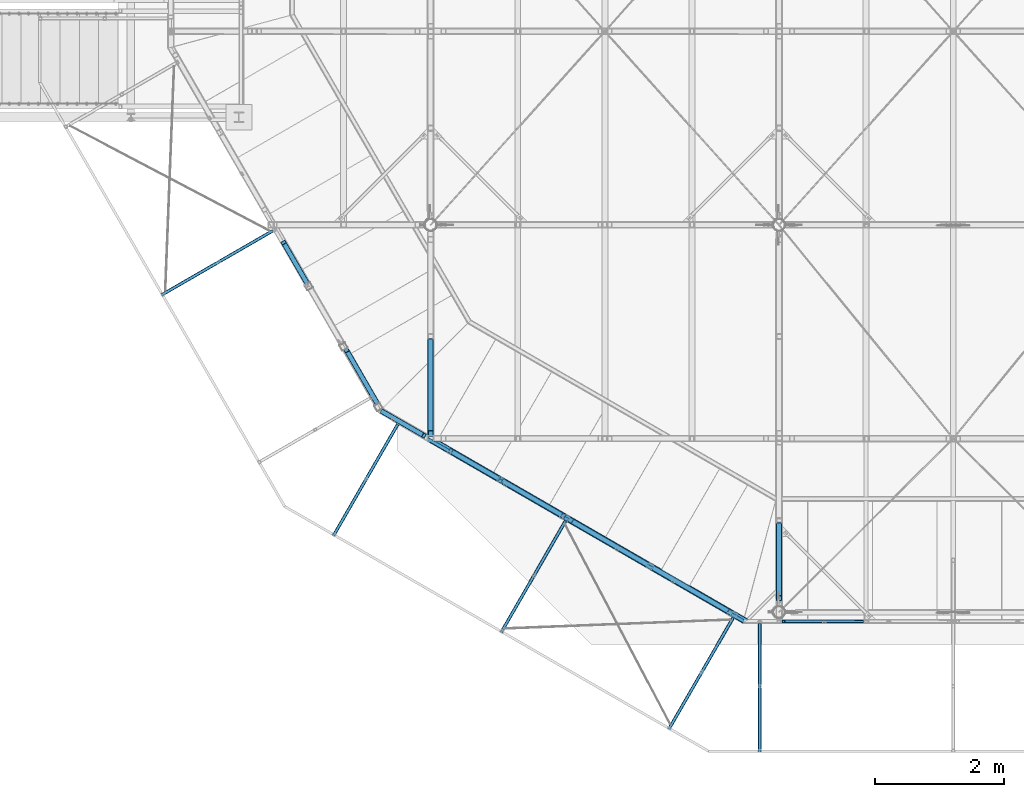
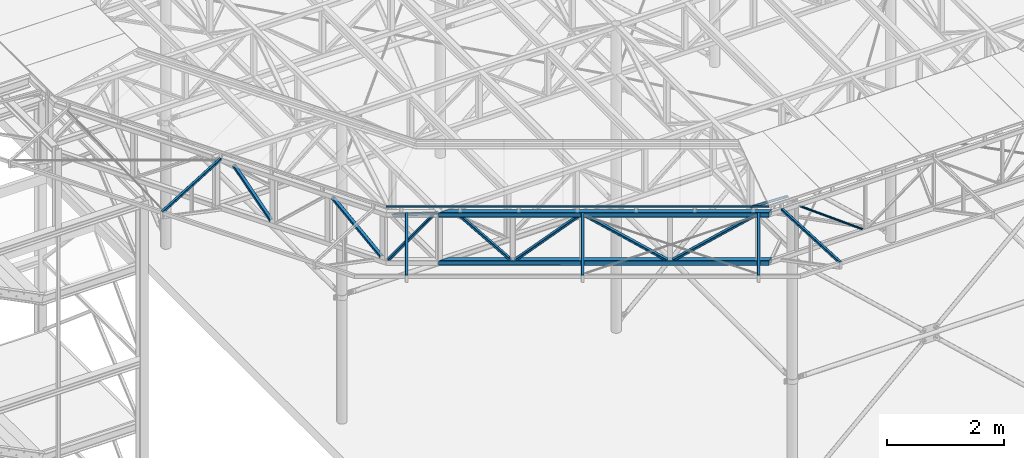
# One storey, part 34 of 132: 18 discrete accessories, 9 elements without a shape of their own.
"""IFC2X3 building model written with IfcOpenShell, lengths in millimetres."""

import ifcopenshell
import ifcopenshell.guid

model = None  # the IFC model being written
_history = None  # IfcOwnerHistory: only IFC2X3 demands one
_inside = {}  # id of a spatial element -> (the spatial element, [elements in it])
_under = {}  # id of a project, library or spatial element -> (it, [spatial elements below it])
_declared = {}  # id of a project -> (the project, [libraries it declares])
_typed = {}  # id of a type object -> (the type object, [elements of that type])
_made_of = {}  # id of a material, layer set ... -> (it, [elements and type objects made of it])


def new_model(schema):
    """Start an empty IFC model of exactly this schema.

    Asked for "IFC4X3", IfcOpenShell would pick the latest addendum, in which some entities
    have other attributes; the version numbers below select the first issue.
    IFC2X3 requires an IfcOwnerHistory on every rooted entity: one is made here for all.
    """
    global model, _history
    if schema == "IFC4X3":
        model = ifcopenshell.file(schema_version=(4, 3, 0, 0))
    else:
        model = ifcopenshell.file(schema=schema)
    _inside.clear()
    _under.clear()
    _declared.clear()
    _typed.clear()
    _made_of.clear()
    _history = None
    if model.schema == "IFC2X3":
        org = make("IfcOrganization", Name="unknown")
        user = make(
            "IfcPersonAndOrganization",
            ThePerson=make("IfcPerson", FamilyName="unknown"),
            TheOrganization=org,
        )
        app = make(
            "IfcApplication",
            ApplicationDeveloper=org,
            Version="unknown",
            ApplicationFullName="unknown",
            ApplicationIdentifier="unknown",
        )
        _history = make(
            "IfcOwnerHistory",
            OwningUser=user,
            OwningApplication=app,
            ChangeAction="ADDED",
            CreationDate=0,
        )
    return model


def make(cls, **values):
    """One entity of the class cls with the attributes given. An attribute that is None is left unset."""
    return model.create_entity(
        cls, **{name: value for name, value in values.items() if value is not None}
    )


def rooted(cls, **values):
    """An entity with a GlobalId (a new one), such as an element, a storey or a relation."""
    return make(cls, GlobalId=ifcopenshell.guid.new(), OwnerHistory=_history, **values)


def si_unit(unit_type, name, prefix=None):
    """IfcSIUnit, for example si_unit("LENGTHUNIT", "METRE", prefix="MILLI")."""
    return make("IfcSIUnit", UnitType=unit_type, Prefix=prefix, Name=name)


def assignment(units):
    """IfcUnitAssignment: the units of a project."""
    return None if units is None else make("IfcUnitAssignment", Units=units)


def point(xyz):
    """IfcCartesianPoint."""
    return None if xyz is None else make("IfcCartesianPoint", Coordinates=xyz)


def direction(xyz):
    """IfcDirection."""
    return None if xyz is None else make("IfcDirection", DirectionRatios=xyz)


def frame(location, z_axis=None, x_axis=None):
    """IfcAxis2Placement3D, a coordinate frame: its origin and axes. An axis left out is left unset."""
    return make(
        "IfcAxis2Placement3D",
        Location=point(location),
        Axis=direction(z_axis),
        RefDirection=direction(x_axis),
    )


def frame_2d(location, x_axis=None):
    """IfcAxis2Placement2D, a coordinate frame in the plane: its origin and x axis."""
    return make(
        "IfcAxis2Placement2D", Location=point(location), RefDirection=direction(x_axis)
    )


def origin_with_axes():
    """The frame at (0, 0, 0) with the z axis (0, 0, 1) and the x axis (1, 0, 0) written out."""
    return frame((0.0, 0.0, 0.0), z_axis=(0.0, 0.0, 1.0), x_axis=(1.0, 0.0, 0.0))


def origin_2d_with_axis():
    """The frame at (0, 0) in the plane with the x axis (1, 0) written out."""
    return frame_2d((0.0, 0.0), x_axis=(1.0, 0.0))


def place(relative_to, where):
    """IfcLocalPlacement: puts the frame where relative to a parent placement (None: the world)."""
    return make(
        "IfcLocalPlacement", PlacementRelTo=relative_to, RelativePlacement=where
    )


def context(
    kind, dimensions, precision=None, world=None, true_north=None, identifier=None
):
    """IfcGeometricRepresentationContext, for example the 3D "Model" context."""
    return make(
        "IfcGeometricRepresentationContext",
        ContextIdentifier=identifier,
        ContextType=kind,
        CoordinateSpaceDimension=dimensions,
        Precision=precision,
        WorldCoordinateSystem=world,
        TrueNorth=true_north,
    )


def subcontext(parent, identifier, kind, view, scale=None):
    """IfcGeometricRepresentationSubContext, for example "Body" below "Model"."""
    return make(
        "IfcGeometricRepresentationSubContext",
        ContextIdentifier=identifier,
        ContextType=kind,
        ParentContext=parent,
        TargetScale=scale,
        TargetView=view,
    )


def project(units=None, contexts=None):
    """IfcProject with its units and contexts."""
    return rooted(
        "IfcProject",
        Name="project",
        RepresentationContexts=contexts,
        UnitsInContext=assignment(units),
    )


def spatial(cls, under=None, at=None, **own):
    """A site, building, storey or space (cls), placed at a placement, below another one or the project."""
    s = rooted(cls, ObjectPlacement=at, **own)
    if under is not None:
        _under.setdefault(under.id(), (under, []))[1].append(s)
    return s


def profile(cls, at=None, kind="AREA", **sizes):
    """A parametric profile (cls). Its sizes go by their IFC names, for example OverallWidth=200.0."""
    return make(cls, ProfileType=kind, Position=at, **sizes)


def rounded_rectangle(**sizes):
    """IfcRoundedRectangleProfileDef."""
    return profile("IfcRoundedRectangleProfileDef", **sizes)


def hollow_rectangle(**sizes):
    """IfcRectangleHollowProfileDef."""
    return profile("IfcRectangleHollowProfileDef", **sizes)


def l_section(**sizes):
    """IfcLShapeProfileDef."""
    return profile("IfcLShapeProfileDef", **sizes)


def extrude(swept, where, along, depth):
    """IfcExtrudedAreaSolid: the profile swept, set in the frame where, extruded along a direction by depth."""
    return make(
        "IfcExtrudedAreaSolid",
        SweptArea=swept,
        Position=where,
        ExtrudedDirection=direction(along),
        Depth=depth,
    )


def boolean(op, a, b):
    """IfcBooleanResult of two solids."""
    return make("IfcBooleanResult", Operator=op, FirstOperand=a, SecondOperand=b)


def clip(a, b, op="DIFFERENCE"):
    """IfcBooleanClippingResult: the solid a cut by the half space b."""
    return make(
        "IfcBooleanClippingResult", Operator=op, FirstOperand=a, SecondOperand=b
    )


def halfspace(plane, agree):
    """IfcHalfSpaceSolid: all space on one side of the plane z = 0 of the frame plane."""
    return make(
        "IfcHalfSpaceSolid",
        BaseSurface=make("IfcPlane", Position=plane),
        AgreementFlag=agree,
    )


def shape(context_of_items, identifier, shape_type, items):
    """IfcShapeRepresentation: the items that make up one representation, for example the "Body"."""
    return make(
        "IfcShapeRepresentation",
        ContextOfItems=context_of_items,
        RepresentationIdentifier=identifier,
        RepresentationType=shape_type,
        Items=items,
    )


def material(Name=None, Category=None):
    """IfcMaterial."""
    return make("IfcMaterial", Name=Name, Category=Category)


def made_of(thing, what):
    """Note that an element or type object is made of a material, layer set ...; save() writes the relation."""
    if what is not None:
        _made_of.setdefault(what.id(), (what, []))[1].append(thing)
    return thing


def type_object(cls, material=None, **own):
    """A type object (cls), such as IfcWallType, which elements share."""
    return made_of(rooted(cls, **own), material)


def element(
    cls,
    number,
    at=None,
    inside=None,
    cuts=None,
    type_object=None,
    material=None,
    context=None,
    identifier="Body",
    shape_type=None,
    held_by="IfcProductDefinitionShape",
    body=None,
    shapes=None,
    **own,
):
    """One element of the class cls, such as IfcWall. Its Tag is "e" and its number.

    at: its placement. inside: the storey or other place that contains it. cuts: it is an
    opening in that element (IfcRelVoidsElement). A single representation is given by context,
    identifier, shape_type and body (its items); several are given by shapes. held_by: the class
    of the entity that holds the representations. save() writes the other relations.
    """
    e = rooted(cls, Tag="e%d" % number, ObjectPlacement=at, **own)
    if body is not None:
        shapes = [shape(context, identifier, shape_type, body)]
    if shapes is not None:
        e.Representation = make(held_by, Representations=shapes)
    if inside is not None:
        _inside.setdefault(inside.id(), (inside, []))[1].append(e)
    if cuts is not None:
        rooted(
            "IfcRelVoidsElement", RelatingBuildingElement=cuts, RelatedOpeningElement=e
        )
    if type_object is not None:
        _typed.setdefault(type_object.id(), (type_object, []))[1].append(e)
    return made_of(e, material)


def aggregate(whole, parts):
    """IfcRelAggregates: a whole, such as a stair, and the parts it consists of."""
    return rooted("IfcRelAggregates", RelatingObject=whole, RelatedObjects=parts)


def save(model, path):
    """Write the relations noted so far, then the file.

    IfcRelAggregates (storeys below a building ...), IfcRelContainedInSpatialStructure (elements
    in a storey), IfcRelDefinesByType, IfcRelAssociatesMaterial and IfcRelDeclares: one each for
    every whole, place, type object, material and project.
    """
    for whole, parts in _under.values():
        aggregate(whole, parts)
    for where, things in _inside.values():
        rooted(
            "IfcRelContainedInSpatialStructure",
            RelatedElements=things,
            RelatingStructure=where,
        )
    for kind, things in _typed.values():
        rooted("IfcRelDefinesByType", RelatedObjects=things, RelatingType=kind)
    for what, things in _made_of.values():
        rooted("IfcRelAssociatesMaterial", RelatedObjects=things, RelatingMaterial=what)
    for by, libraries in _declared.values():
        rooted("IfcRelDeclares", RelatingContext=by, RelatedDefinitions=libraries)
    model.write(path)


model = new_model("IFC2X3")

# Units and contexts
model_context = context("Model", 3, precision=1e-05, world=origin_with_axes())
body_context = subcontext(model_context, "Body", "Model", "MODEL_VIEW")
ifc_project = project(units=[si_unit("LENGTHUNIT", "METRE", prefix="MILLI"), si_unit("AREAUNIT", "SQUARE_METRE"), si_unit("VOLUMEUNIT", "CUBIC_METRE"), si_unit("MASSUNIT", "GRAM", prefix="KILO"), si_unit("TIMEUNIT", "SECOND"), si_unit("PLANEANGLEUNIT", "RADIAN"), si_unit("SOLIDANGLEUNIT", "STERADIAN"), si_unit("THERMODYNAMICTEMPERATUREUNIT", "DEGREE_CELSIUS"), si_unit("LUMINOUSINTENSITYUNIT", "LUMEN")], contexts=[model_context])

# Site, building, storey
site_placement = place(None, origin_with_axes())
site = spatial("IfcSite", under=ifc_project, at=site_placement, Name="Budowa", CompositionType="ELEMENT")
building_placement = place(site_placement, origin_with_axes())
building = spatial("IfcBuilding", under=site, at=building_placement, Name="Undefined", CompositionType="ELEMENT")
storey_placement = place(building_placement, origin_with_axes())
storey = spatial("IfcBuildingStorey", under=building, at=storey_placement, Name="Undefined", CompositionType="ELEMENT", Elevation=0.0)

# Assembly, discrete accessory
assembly_1_placement = place(storey_placement, origin_with_axes())
assembly_1 = element("IfcElementAssembly", 1, at=assembly_1_placement, inside=storey, Name="Steel Assembly", AssemblyPlace="NOTDEFINED", PredefinedType="RIGID_FRAME")
ifc_material = material(Name="STEEL/S235")
discrete_accessory_type = type_object("IfcDiscreteAccessoryType", Name="BEAM")
discrete_accessory_1_placement = place(assembly_1_placement, frame((3227.27952073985, 3113.2273948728, 14004.0), z_axis=(0.499965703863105, 0.866045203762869, 0.0), x_axis=(0.86604520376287, -0.499965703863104, 0.0)))
discrete_accessory_1 = element("IfcDiscreteAccessory", 2, at=discrete_accessory_1_placement, type_object=discrete_accessory_type, material=ifc_material, Name="BEAM", ObjectType="L60*40*6", context=body_context, shape_type="Clipping", body=[
    clip(clip(extrude(l_section(Depth=60.0, Width=40.0, Thickness=6.0, FilletRadius=6.0, EdgeRadius=3.0, at=origin_2d_with_axis()), frame((6569.1811376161, 1.81898940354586e-12, -3.64662807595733e-13), z_axis=(-1.0, 0.0, 0.0), x_axis=(0.0, -1.0, 0.0)), (0.0, 0.0, 1.0), 6613.62), halfspace(frame((6508.6639460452, 1.81898940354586e-12, 30.0000000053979), z_axis=(-0.965930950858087, 0.0, -0.258799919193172), x_axis=(0.0, -1.0, 0.0)), True)), halfspace(frame((-1.35811551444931e-05, 1.81898940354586e-12, -30.0000000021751), z_axis=(0.965921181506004, 0.0, -0.258836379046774), x_axis=(0.0, -1.0, 0.0)), True)),
])
aggregate(assembly_1, [discrete_accessory_1])

assembly_2_placement = place(storey_placement, origin_with_axes())
assembly_2 = element("IfcElementAssembly", 3, at=assembly_2_placement, inside=storey, Name="Steel Assembly", AssemblyPlace="NOTDEFINED", PredefinedType="RIGID_FRAME")
discrete_accessory_2_placement = place(assembly_2_placement, frame((1580.84141965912, 5910.61448167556, 13855.0311915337), z_axis=(0.499969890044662, -0.866042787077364, 0.0), x_axis=(-0.864962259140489, -0.499346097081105, 0.0499376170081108)))
discrete_accessory_2 = element("IfcDiscreteAccessory", 4, at=discrete_accessory_2_placement, type_object=discrete_accessory_type, material=ifc_material, Name="BEAM", ObjectType="SHS50*4", context=body_context, shape_type="Clipping", body=[
    clip(clip(extrude(hollow_rectangle(XDim=50.0, YDim=50.0, WallThickness=4.0, InnerFilletRadius=4.0, OuterFilletRadius=8.0, at=origin_2d_with_axis()), frame((2047.80222226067, -1.81898940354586e-12, -1.00153404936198e-12), z_axis=(-1.0, 0.0, 0.0), x_axis=(0.0, -1.0, 0.0)), (0.0, 0.0, 1.0), 2120.54), halfspace(frame((2002.5989463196, -25.0000000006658, -7.85761585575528e-07), z_axis=(-0.689225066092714, -0.724547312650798, 2.88487317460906e-10), x_axis=(0.0, 0.0, -1.0)), True)), halfspace(frame((-1.23691279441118e-08, -25.0000000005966, 73.1665326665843), z_axis=(-0.998752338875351, -0.0499376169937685, 0.0), x_axis=(0.0, 0.0, -1.0)), False)),
])
aggregate(assembly_2, [discrete_accessory_2])

assembly_3_placement = place(storey_placement, origin_with_axes())
assembly_3 = element("IfcElementAssembly", 5, at=assembly_3_placement, inside=storey, Name="Steel Assembly", AssemblyPlace="NOTDEFINED", PredefinedType="RIGID_FRAME")
discrete_accessory_3_placement = place(assembly_3_placement, frame((3516.44865703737, 2910.24346693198, 13855.0311915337), z_axis=(-0.866042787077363, 0.499969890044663, 0.0), x_axis=(-0.499346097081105, -0.864962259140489, 0.0499376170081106)))
discrete_accessory_3 = element("IfcDiscreteAccessory", 6, at=discrete_accessory_3_placement, type_object=discrete_accessory_type, material=ifc_material, Name="BEAM", ObjectType="SHS50*4", context=body_context, shape_type="Clipping", body=[
    clip(clip(extrude(hollow_rectangle(XDim=50.0, YDim=50.0, WallThickness=4.0, InnerFilletRadius=4.0, OuterFilletRadius=8.0, at=origin_2d_with_axis()), frame((2047.80222226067, -1.81898940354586e-12, -1.00153404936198e-12), z_axis=(-1.0, 0.0, 0.0), x_axis=(0.0, -1.0, 0.0)), (0.0, 0.0, 1.0), 2120.54), halfspace(frame((2002.59894631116, 25.0000000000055, -2.91038304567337e-11), z_axis=(-0.689225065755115, 0.724547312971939, 0.0), x_axis=(0.0, 0.0, 1.0)), True)), halfspace(frame((-1.21290213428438e-08, 25.0000000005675, 73.1665326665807), z_axis=(-0.998752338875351, 0.0499376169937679, 0.0), x_axis=(-0.0499376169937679, -0.998752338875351, 0.0)), False)),
])
aggregate(assembly_3, [discrete_accessory_3])

assembly_4_placement = place(storey_placement, origin_with_axes())
assembly_4 = element("IfcElementAssembly", 7, at=assembly_4_placement, inside=storey, Name="Steel Assembly", AssemblyPlace="NOTDEFINED", PredefinedType="RIGID_FRAME")
discrete_accessory_4_placement = place(assembly_4_placement, frame((8712.70537952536, -89.5758733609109, 13855.0311915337), z_axis=(-0.866042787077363, 0.499969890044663, 0.0), x_axis=(-0.499346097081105, -0.864962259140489, 0.0499376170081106)))
discrete_accessory_4 = element("IfcDiscreteAccessory", 8, at=discrete_accessory_4_placement, type_object=discrete_accessory_type, material=ifc_material, Name="BEAM", ObjectType="SHS50*4", context=body_context, shape_type="Clipping", body=[
    clip(clip(extrude(hollow_rectangle(XDim=50.0, YDim=50.0, WallThickness=4.0, InnerFilletRadius=4.0, OuterFilletRadius=8.0, at=origin_2d_with_axis()), frame((2047.80222226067, -1.81898940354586e-12, -1.00153404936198e-12), z_axis=(-1.0, 0.0, 0.0), x_axis=(0.0, -1.0, 0.0)), (0.0, 0.0, 1.0), 2120.54), halfspace(frame((2002.59894631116, 25.0000000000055, -2.91038304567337e-11), z_axis=(-0.689225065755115, 0.724547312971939, 0.0), x_axis=(0.0, 0.0, 1.0)), True)), halfspace(frame((-1.21290213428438e-08, 25.0000000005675, 73.1665326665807), z_axis=(-0.998752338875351, 0.0499376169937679, 0.0), x_axis=(-0.0499376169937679, -0.998752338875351, 0.0)), False)),
])
aggregate(assembly_4, [discrete_accessory_4])

assembly_5_placement = place(storey_placement, origin_with_axes())
assembly_5 = element("IfcElementAssembly", 9, at=assembly_5_placement, inside=storey, Name="Steel Assembly", AssemblyPlace="NOTDEFINED", PredefinedType="RIGID_FRAME")
discrete_accessory_5_placement = place(assembly_5_placement, frame((6114.57701827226, 1410.33379680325, 13855.0311915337), z_axis=(-0.866042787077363, 0.499969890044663, 0.0), x_axis=(-0.499346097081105, -0.864962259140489, 0.0499376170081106)))
discrete_accessory_5 = element("IfcDiscreteAccessory", 10, at=discrete_accessory_5_placement, type_object=discrete_accessory_type, material=ifc_material, Name="BEAM", ObjectType="SHS50*4", context=body_context, shape_type="Clipping", body=[
    clip(clip(extrude(hollow_rectangle(XDim=50.0, YDim=50.0, WallThickness=4.0, InnerFilletRadius=4.0, OuterFilletRadius=8.0, at=origin_2d_with_axis()), frame((2047.80222226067, -1.81898940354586e-12, -1.00153404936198e-12), z_axis=(-1.0, 0.0, 0.0), x_axis=(0.0, -1.0, 0.0)), (0.0, 0.0, 1.0), 2120.54), halfspace(frame((2002.59894631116, 25.0000000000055, -2.91038304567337e-11), z_axis=(-0.689225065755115, 0.724547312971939, 0.0), x_axis=(0.0, 0.0, 1.0)), True)), halfspace(frame((-1.21290213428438e-08, 25.0000000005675, 73.1665326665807), z_axis=(-0.998752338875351, 0.0499376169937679, 0.0), x_axis=(-0.0499376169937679, -0.998752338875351, 0.0)), False)),
])
aggregate(assembly_5, [discrete_accessory_5])

assembly_6_placement = place(storey_placement, origin_with_axes())
assembly_6 = element("IfcElementAssembly", 11, at=assembly_6_placement, inside=storey, Name="Steel Assembly", AssemblyPlace="NOTDEFINED", PredefinedType="RIGID_FRAME")
discrete_accessory_6_placement = place(assembly_6_placement, frame((9124.99999998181, -176.148440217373, 13855.0311915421), z_axis=(1.0, 0.0, 0.0), x_axis=(0.0, -0.998752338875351, 0.0499376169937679)))
discrete_accessory_6 = element("IfcDiscreteAccessory", 12, at=discrete_accessory_6_placement, type_object=discrete_accessory_type, material=ifc_material, Name="BEAM", ObjectType="SHS50*4", context=body_context, shape_type="Clipping", body=[
    clip(clip(extrude(hollow_rectangle(XDim=50.0, YDim=50.0, WallThickness=4.0, InnerFilletRadius=4.0, OuterFilletRadius=8.0, at=origin_2d_with_axis()), frame((2004.12425861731, -3.63797880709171e-12, 0.0), z_axis=(-1.0, 0.0, 0.0), x_axis=(0.0, -1.0, 0.0)), (0.0, 0.0, 1.0), 2033.18), halfspace(frame((2002.5989463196, -25.0000000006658, -7.85761585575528e-07), z_axis=(-0.689225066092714, -0.724547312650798, 2.88487317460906e-10), x_axis=(0.0, 0.0, -1.0)), True)), halfspace(frame((-1.23691279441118e-08, -25.0000000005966, 73.1665326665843), z_axis=(-0.998752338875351, -0.0499376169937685, 0.0), x_axis=(0.0, 0.0, -1.0)), False)),
])
aggregate(assembly_6, [discrete_accessory_6])

# Assembly, discrete accessories
assembly_7_placement = place(storey_placement, origin_with_axes())
assembly_7 = element("IfcElementAssembly", 13, at=assembly_7_placement, inside=storey, Name="Steel Assembly", AssemblyPlace="NOTDEFINED", PredefinedType="RIGID_FRAME")
discrete_accessory_7_placement = place(assembly_7_placement, frame((3244.96071464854, 3126.11351874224, 12829.9999999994), z_axis=(-0.499969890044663, -0.866042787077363, 0.0), x_axis=(0.550737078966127, -0.317942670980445, 0.771751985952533)))
discrete_accessory_7 = element("IfcDiscreteAccessory", 14, at=discrete_accessory_7_placement, type_object=discrete_accessory_type, material=ifc_material, Name="BEAM", ObjectType="RHS80*40*4", context=body_context, shape_type="Clipping", body=[
    clip(clip(extrude(hollow_rectangle(XDim=40.0, YDim=80.0, WallThickness=4.0, InnerFilletRadius=4.0, OuterFilletRadius=8.0, at=origin_2d_with_axis()), frame((1308.75188651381, 7.64194053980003e-13, -5.26465298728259e-14), z_axis=(-1.0, 0.0, 0.0), x_axis=(0.0, -1.0, 0.0)), (0.0, 0.0, 1.0), 1321.75), halfspace(frame((1257.16546421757, -31.7961818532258, 1000.0000000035), z_axis=(-0.771751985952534, -0.635923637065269, 7.1397709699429e-11), x_axis=(0.635923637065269, -0.771751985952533, -5.88306647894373e-11)), True)), halfspace(frame((38.5875993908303, 31.7961818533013, 999.999999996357), z_axis=(0.771751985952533, 0.63592363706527, -7.13974205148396e-11), x_axis=(-0.635923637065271, 0.771751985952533, 5.8831574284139e-11)), True)),
])
discrete_accessory_8_placement = place(assembly_7_placement, frame((1725.39844917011, 5762.60102031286, 13830.0000000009), z_axis=(-0.866025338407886, -0.500000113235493, 0.0), x_axis=(0.317961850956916, -0.550726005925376, -0.771751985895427)))
solid_1 = boolean("DIFFERENCE", boolean("DIFFERENCE", extrude(rounded_rectangle(XDim=100.0, YDim=100.0, RoundingRadius=8.0, at=origin_2d_with_axis()), frame((562.315003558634, 603.795327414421, 8.66620607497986e-08), z_axis=(0.771751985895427, -0.635923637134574, 1.24207727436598e-10), x_axis=(0.635923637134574, 0.771751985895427, 1.02347408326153e-10)), (0.0, 0.0, 1.0), 900.0), halfspace(frame((562.315003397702, 603.795327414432, 1000.00000008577), z_axis=(0.771751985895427, -0.635923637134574, 1.24207727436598e-10), x_axis=(0.635923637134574, 0.771751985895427, 1.02347408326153e-10)), True)), halfspace(frame((1256.89179070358, 31.4640539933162, 1000.00000019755), z_axis=(-0.771751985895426, 0.635923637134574, -1.24207010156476e-10), x_axis=(-0.635923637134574, -0.771751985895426, -1.02347257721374e-10)), True))
discrete_accessory_8 = element("IfcDiscreteAccessory", 15, at=discrete_accessory_8_placement, type_object=discrete_accessory_type, material=ifc_material, Name="BEAM", ObjectType="RHS80*40*4", context=body_context, shape_type="CSG", body=[
    boolean("DIFFERENCE", boolean("DIFFERENCE", boolean("DIFFERENCE", extrude(hollow_rectangle(XDim=40.0, YDim=80.0, WallThickness=4.0, InnerFilletRadius=4.0, OuterFilletRadius=8.0, at=origin_2d_with_axis()), frame((1286.18037682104, -1.81898940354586e-12, 9.30315642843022e-13), z_axis=(-1.0, 0.0, 0.0), x_axis=(0.0, -1.0, 0.0)), (0.0, 0.0, 1.0), 1276.61), solid_1), halfspace(frame((1257.16546406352, 31.7961818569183, 999.999999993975), z_axis=(-0.771751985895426, 0.635923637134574, -1.24207010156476e-10), x_axis=(-0.635923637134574, -0.771751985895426, -1.02347257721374e-10)), True)), halfspace(frame((38.5875991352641, -31.7961818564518, 1000.0000000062), z_axis=(0.771751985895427, -0.635923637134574, 1.24207727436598e-10), x_axis=(0.635923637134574, 0.771751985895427, 1.02347408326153e-10)), True)),
])
discrete_accessory_9_placement = place(assembly_7_placement, frame((3235.78179049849, 3168.01709068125, 12829.9999999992), z_axis=(-0.866025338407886, -0.500000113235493, 0.0), x_axis=(-0.366880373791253, 0.63545536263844, 0.679408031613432)))
solid_2 = boolean("DIFFERENCE", boolean("DIFFERENCE", extrude(rounded_rectangle(XDim=100.0, YDim=100.0, RoundingRadius=8.0, at=origin_2d_with_axis()), frame((659.083833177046, -684.437266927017, 10.7382027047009), z_axis=(-0.679408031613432, 0.73376067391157, -2.95361762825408e-10), x_axis=(-0.73376067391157, -0.679408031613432, -3.18989668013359e-10)), (0.0, 0.0, 1.0), 900.0), halfspace(frame((659.08383274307, -684.437266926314, 1010.73820270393), z_axis=(-0.679408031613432, 0.73376067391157, -2.95361762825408e-10), x_axis=(-0.73376067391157, -0.679408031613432, -3.18989668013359e-10)), True)), halfspace(frame((47.6166042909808, -24.0526604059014, 1010.73820243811), z_axis=(0.679408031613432, -0.73376067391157, 2.95362334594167e-10), x_axis=(0.73376067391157, 0.679408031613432, 3.18989805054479e-10)), True))
solid_3 = boolean("DIFFERENCE", boolean("DIFFERENCE", extrude(rounded_rectangle(XDim=100.0, YDim=100.0, RoundingRadius=8.0, at=origin_2d_with_axis()), frame((1451.54536100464, 49.3234072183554, 10.7382030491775), z_axis=(-0.679408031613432, 0.73376067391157, -2.95361762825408e-10), x_axis=(-0.73376067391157, -0.679408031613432, -3.18989668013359e-10)), (0.0, 0.0, 1.0), 900.0), halfspace(frame((1451.54536057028, 49.3234072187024, 1010.73820304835), z_axis=(-0.679408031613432, 0.73376067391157, -2.95361762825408e-10), x_axis=(-0.73376067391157, -0.679408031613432, -3.18989668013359e-10)), True)), halfspace(frame((840.078132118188, 709.708013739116, 1010.73820278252), z_axis=(0.679408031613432, -0.73376067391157, 2.95362334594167e-10), x_axis=(0.73376067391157, 0.679408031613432, 3.18989805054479e-10)), True))
discrete_accessory_9 = element("IfcDiscreteAccessory", 16, at=discrete_accessory_9_placement, type_object=discrete_accessory_type, material=ifc_material, Name="BEAM", ObjectType="RHS80*40*4", context=body_context, shape_type="CSG", body=[
    boolean("DIFFERENCE", boolean("DIFFERENCE", boolean("DIFFERENCE", boolean("DIFFERENCE", extrude(hollow_rectangle(XDim=40.0, YDim=80.0, WallThickness=4.0, InnerFilletRadius=4.0, OuterFilletRadius=8.0, at=origin_2d_with_axis()), frame((1467.50994166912, 1.65606307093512e-12, 8.39079865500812e-13), z_axis=(-1.0, 0.0, 0.0), x_axis=(0.0, -1.0, 0.0)), (0.0, 0.0, 1.0), 1463.15), solid_2), solid_3), halfspace(frame((1437.89915717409, 36.6880336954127, 999.999999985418), z_axis=(-0.679408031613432, 0.73376067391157, -2.95361762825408e-10), x_axis=(-0.73376067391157, -0.679408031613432, -3.18989668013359e-10)), True)), halfspace(frame((33.9704011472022, -36.6880336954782, 1000.00000001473), z_axis=(0.679408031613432, -0.73376067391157, 2.95362334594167e-10), x_axis=(0.73376067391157, 0.679408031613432, 3.18989805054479e-10)), True)),
])
aggregate(assembly_7, [discrete_accessory_7, discrete_accessory_8, discrete_accessory_9])

assembly_8_placement = place(storey_placement, origin_with_axes())
assembly_8 = element("IfcElementAssembly", 17, at=assembly_8_placement, inside=storey, Name="Steel Assembly", AssemblyPlace="NOTDEFINED", PredefinedType="RIGID_FRAME")
discrete_accessory_10_placement = place(assembly_8_placement, frame((4293.90600967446, 2520.58970884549, 13830.0000000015), z_axis=(-0.499969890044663, -0.866042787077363, 0.0), x_axis=(0.593830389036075, -0.342820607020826, -0.72790074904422)))
solid_4 = boolean("DIFFERENCE", boolean("DIFFERENCE", extrude(hollow_rectangle(XDim=90.0, YDim=90.0, WallThickness=4.0, InnerFilletRadius=4.0, OuterFilletRadius=8.0, at=origin_2d_with_axis()), frame((682.221233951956, 651.306316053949, 2.31073710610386e-07), z_axis=(0.72790074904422, -0.685682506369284, 2.47249942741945e-10), x_axis=(0.685682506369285, 0.72790074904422, 2.32910135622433e-10)), (0.0, 0.0, 1.0), 900.0), halfspace(frame((682.221233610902, 651.306316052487, 1000.00000023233), z_axis=(0.72790074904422, -0.685682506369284, 2.47249942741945e-10), x_axis=(0.685682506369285, 0.72790074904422, 2.32910135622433e-10)), True)), halfspace(frame((1337.3319077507, 34.1920603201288, 1000.00000045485), z_axis=(-0.727900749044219, 0.685682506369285, -2.47248696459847e-10), x_axis=(-0.685682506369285, -0.727900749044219, -2.32909314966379e-10)), True))
discrete_accessory_10 = element("IfcDiscreteAccessory", 18, at=discrete_accessory_10_placement, type_object=discrete_accessory_type, material=ifc_material, Name="BEAM", ObjectType="RHS80*40*4", context=body_context, shape_type="CSG", body=[
    boolean("DIFFERENCE", boolean("DIFFERENCE", boolean("DIFFERENCE", extrude(hollow_rectangle(XDim=40.0, YDim=80.0, WallThickness=4.0, InnerFilletRadius=4.0, OuterFilletRadius=8.0, at=origin_2d_with_axis()), frame((1373.49673337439, 0.0, -8.42217636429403e-13), z_axis=(-1.0, 0.0, 0.0), x_axis=(0.0, -1.0, 0.0)), (0.0, 0.0, 1.0), 1373.18), solid_4), halfspace(frame((1337.41863297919, 34.2841253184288, 999.999999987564), z_axis=(-0.727900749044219, 0.685682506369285, -2.47248696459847e-10), x_axis=(-0.685682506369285, -0.727900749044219, -2.32909314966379e-10)), True)), halfspace(frame((36.3950371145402, -34.2841253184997, 1000.00000001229), z_axis=(0.72790074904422, -0.685682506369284, 2.47249942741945e-10), x_axis=(0.685682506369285, 0.72790074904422, 2.32910135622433e-10)), True)),
])
discrete_accessory_11_placement = place(assembly_8_placement, frame((6129.80718196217, 1460.71677769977, 13830.0000000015), z_axis=(-0.499969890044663, -0.866042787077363, 0.0), x_axis=(-0.660231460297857, 0.381154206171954, -0.647159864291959)))
solid_5 = boolean("DIFFERENCE", boolean("DIFFERENCE", extrude(hollow_rectangle(XDim=90.0, YDim=90.0, WallThickness=4.0, InnerFilletRadius=4.0, OuterFilletRadius=8.0, at=origin_2d_with_axis()), frame((32.3579932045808, 38.1177160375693, 1.45106249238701e-08), z_axis=(0.64715986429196, 0.762354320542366, 2.65512223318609e-10), x_axis=(-0.762354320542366, 0.647159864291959, -3.12772752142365e-10)), (0.0, 0.0, 1.0), 900.0), halfspace(frame((32.357992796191, 38.1177160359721, 1000.00000001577), z_axis=(0.64715986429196, 0.762354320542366, 2.65512223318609e-10), x_axis=(-0.762354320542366, 0.647159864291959, -3.12772752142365e-10)), True)), halfspace(frame((614.801870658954, 724.236604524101, 1000.00000025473), z_axis=(-0.647159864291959, -0.762354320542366, -2.655122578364e-10), x_axis=(0.762354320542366, -0.647159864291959, 3.12773408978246e-10)), True))
solid_6 = boolean("DIFFERENCE", boolean("DIFFERENCE", extrude(hollow_rectangle(XDim=90.0, YDim=90.0, WallThickness=4.0, InnerFilletRadius=4.0, OuterFilletRadius=8.0, at=origin_2d_with_axis()), frame((930.41138280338, -724.236604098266, 3.85326166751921e-07), z_axis=(0.64715986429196, 0.762354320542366, 2.65512223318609e-10), x_axis=(-0.762354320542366, 0.647159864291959, -3.12772752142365e-10)), (0.0, 0.0, 1.0), 900.0), halfspace(frame((930.411382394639, -724.236604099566, 1000.00000038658), z_axis=(0.64715986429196, 0.762354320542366, 2.65512223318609e-10), x_axis=(-0.762354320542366, 0.647159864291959, -3.12772752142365e-10)), True)), halfspace(frame((1512.8552602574, -38.1177156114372, 1000.00000062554), z_axis=(-0.647159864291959, -0.762354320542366, -2.655122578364e-10), x_axis=(0.762354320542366, -0.647159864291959, 3.12773408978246e-10)), True))
discrete_accessory_11 = element("IfcDiscreteAccessory", 19, at=discrete_accessory_11_placement, type_object=discrete_accessory_type, material=ifc_material, Name="BEAM", ObjectType="RHS80*40*4", context=body_context, shape_type="CSG", body=[
    boolean("DIFFERENCE", boolean("DIFFERENCE", boolean("DIFFERENCE", boolean("DIFFERENCE", extrude(hollow_rectangle(XDim=40.0, YDim=80.0, WallThickness=4.0, InnerFilletRadius=4.0, OuterFilletRadius=8.0, at=origin_2d_with_axis()), frame((1542.70146532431, -8.56371343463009e-14, -4.63483066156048e-14), z_axis=(-1.0, 0.0, 0.0), x_axis=(0.0, -1.0, 0.0)), (0.0, 0.0, 1.0), 1540.19), solid_5), solid_6), halfspace(frame((1512.8552602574, -38.1177156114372, 1000.00000062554), z_axis=(-0.647159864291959, -0.762354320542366, -2.655122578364e-10), x_axis=(0.762354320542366, -0.647159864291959, 3.12773408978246e-10)), True)), halfspace(frame((32.357992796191, 38.1177160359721, 1000.00000001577), z_axis=(0.64715986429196, 0.762354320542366, 2.65512223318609e-10), x_axis=(-0.762354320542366, 0.647159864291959, -3.12772752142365e-10)), True)),
])
discrete_accessory_12_placement = place(assembly_8_placement, frame((6129.91671829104, 1460.65354194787, 13830.0000000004), z_axis=(-0.499969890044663, -0.866042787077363, 0.0), x_axis=(0.720591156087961, -0.41600009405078, -0.554700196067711)))
solid_7 = boolean("DIFFERENCE", boolean("DIFFERENCE", extrude(hollow_rectangle(XDim=90.0, YDim=90.0, WallThickness=4.0, InnerFilletRadius=4.0, OuterFilletRadius=8.0, at=origin_2d_with_axis()), frame((1275.70521449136, 790.377621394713, 2.53192300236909e-07), z_axis=(0.554700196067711, -0.832050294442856, 1.11090858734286e-10), x_axis=(0.832050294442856, 0.554700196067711, 1.66635594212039e-10)), (0.0, 0.0, 1.0), 900.0), halfspace(frame((1275.70521428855, 790.377621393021, 1000.00000025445), z_axis=(0.554700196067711, -0.832050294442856, 1.11090858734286e-10), x_axis=(0.832050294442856, 0.554700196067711, 1.66635594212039e-10)), True)), halfspace(frame((1774.93539074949, 41.5323563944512, 1000.00000035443), z_axis=(-0.554700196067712, 0.832050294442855, -1.1109021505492e-10), x_axis=(-0.832050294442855, -0.554700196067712, -1.66634890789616e-10)), True))
solid_8 = boolean("DIFFERENCE", boolean("DIFFERENCE", extrude(hollow_rectangle(XDim=90.0, YDim=90.0, WallThickness=4.0, InnerFilletRadius=4.0, OuterFilletRadius=8.0, at=origin_2d_with_axis()), frame((27.6297728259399, -41.6726727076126, 6.27176466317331e-09), z_axis=(0.554700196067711, -0.832050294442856, 1.11090858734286e-10), x_axis=(0.832050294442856, 0.554700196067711, 1.66635594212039e-10)), (0.0, 0.0, 1.0), 900.0), halfspace(frame((27.6297726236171, -41.6726727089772, 1000.00000000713), z_axis=(0.554700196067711, -0.832050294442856, 1.11090858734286e-10), x_axis=(0.832050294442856, 0.554700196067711, 1.66635594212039e-10)), True)), halfspace(frame((526.859949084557, -790.517937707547, 1000.00000010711), z_axis=(-0.554700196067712, 0.832050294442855, -1.1109021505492e-10), x_axis=(-0.832050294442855, -0.554700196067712, -1.66634890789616e-10)), True))
discrete_accessory_12 = element("IfcDiscreteAccessory", 20, at=discrete_accessory_12_placement, type_object=discrete_accessory_type, material=ifc_material, Name="BEAM", ObjectType="RHS80*40*4", context=body_context, shape_type="CSG", body=[
    boolean("DIFFERENCE", boolean("DIFFERENCE", boolean("DIFFERENCE", boolean("DIFFERENCE", extrude(hollow_rectangle(XDim=40.0, YDim=80.0, WallThickness=4.0, InnerFilletRadius=4.0, OuterFilletRadius=8.0, at=origin_2d_with_axis()), frame((1821.2793628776, 0.0, -8.6431479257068e-13), z_axis=(-1.0, 0.0, 0.0), x_axis=(0.0, -1.0, 0.0)), (0.0, 0.0, 1.0), 1839.78), solid_7), solid_8), halfspace(frame((1775.04062824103, 41.6025147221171, 999.999999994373), z_axis=(-0.554700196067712, 0.832050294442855, -1.1109021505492e-10), x_axis=(-0.832050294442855, -0.554700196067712, -1.66634890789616e-10)), True)), halfspace(frame((27.7350096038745, -41.6025147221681, 1000.00000000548), z_axis=(0.554700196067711, -0.832050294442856, 1.11090858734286e-10), x_axis=(0.832050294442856, 0.554700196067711, 1.66635594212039e-10)), True)),
])
discrete_accessory_13_placement = place(assembly_8_placement, frame((8727.93554319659, -39.1928924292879, 13830.0000000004), z_axis=(-0.499969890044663, -0.866042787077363, 0.0), x_axis=(-0.720591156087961, 0.41600009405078, -0.554700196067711)))
solid_9 = boolean("DIFFERENCE", boolean("DIFFERENCE", extrude(hollow_rectangle(XDim=90.0, YDim=90.0, WallThickness=4.0, InnerFilletRadius=4.0, OuterFilletRadius=8.0, at=origin_2d_with_axis()), frame((27.7350097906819, 41.6025147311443, -4.89933715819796e-09), z_axis=(0.554700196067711, 0.832050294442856, -1.11090858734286e-10), x_axis=(-0.832050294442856, 0.554700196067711, 1.66634595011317e-10)), (0.0, 0.0, 1.0), 900.0), halfspace(frame((27.7350099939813, 41.6025147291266, 999.999999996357), z_axis=(0.554700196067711, 0.832050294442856, -1.11090858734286e-10), x_axis=(-0.832050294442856, 0.554700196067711, 1.66634595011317e-10)), True)), halfspace(frame((526.965186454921, 790.447779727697, 999.999999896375), z_axis=(-0.554700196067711, -0.832050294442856, 1.11091980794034e-10), x_axis=(0.832050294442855, -0.554700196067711, -1.66634436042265e-10)), True))
solid_10 = boolean("DIFFERENCE", boolean("DIFFERENCE", extrude(hollow_rectangle(XDim=90.0, YDim=90.0, WallThickness=4.0, InnerFilletRadius=4.0, OuterFilletRadius=8.0, at=origin_2d_with_axis()), frame((1275.81045145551, -790.447779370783, -2.51850795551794e-07), z_axis=(0.554700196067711, 0.832050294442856, -1.11090858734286e-10), x_axis=(-0.832050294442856, 0.554700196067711, 1.66634595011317e-10)), (0.0, 0.0, 1.0), 900.0), halfspace(frame((1275.81045165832, -790.447779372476, 999.999999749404), z_axis=(0.554700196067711, 0.832050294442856, -1.11090858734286e-10), x_axis=(-0.832050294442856, 0.554700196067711, 1.66634595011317e-10)), True)), halfspace(frame((1775.04062811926, -41.6025143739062, 999.999999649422), z_axis=(-0.554700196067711, -0.832050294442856, 1.11091980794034e-10), x_axis=(0.832050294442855, -0.554700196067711, -1.66634436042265e-10)), True))
discrete_accessory_13 = element("IfcDiscreteAccessory", 21, at=discrete_accessory_13_placement, type_object=discrete_accessory_type, material=ifc_material, Name="BEAM", ObjectType="RHS80*40*4", context=body_context, shape_type="CSG", body=[
    boolean("DIFFERENCE", boolean("DIFFERENCE", boolean("DIFFERENCE", boolean("DIFFERENCE", extrude(hollow_rectangle(XDim=40.0, YDim=80.0, WallThickness=4.0, InnerFilletRadius=4.0, OuterFilletRadius=8.0, at=origin_2d_with_axis()), frame((1821.2793628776, 0.0, -8.6431479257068e-13), z_axis=(-1.0, 0.0, 0.0), x_axis=(0.0, -1.0, 0.0)), (0.0, 0.0, 1.0), 1839.78), solid_9), solid_10), halfspace(frame((1775.04062811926, -41.6025143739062, 999.999999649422), z_axis=(-0.554700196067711, -0.832050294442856, 1.11091980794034e-10), x_axis=(0.832050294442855, -0.554700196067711, -1.66634436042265e-10)), True)), halfspace(frame((27.7350099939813, 41.6025147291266, 999.999999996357), z_axis=(0.554700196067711, 0.832050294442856, -1.11090858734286e-10), x_axis=(-0.832050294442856, 0.554700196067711, 1.66634595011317e-10)), True)),
])
discrete_accessory_14_placement = place(assembly_8_placement, frame((8887.99849449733, -131.597860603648, 12830.0), z_axis=(0.0, 0.0, 1.0), x_axis=(-0.866042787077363, 0.499969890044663, 0.0)))
discrete_accessory_14 = element("IfcDiscreteAccessory", 22, at=discrete_accessory_14_placement, type_object=discrete_accessory_type, material=ifc_material, Name="BEAM", ObjectType="SHS100*5", context=body_context, shape_type="Clipping", body=[
    clip(clip(extrude(hollow_rectangle(XDim=100.0, YDim=100.0, WallThickness=5.0, InnerFilletRadius=5.0, OuterFilletRadius=10.0, at=origin_2d_with_axis()), frame((5640.58238679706, 0.0, 1.81898940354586e-12), z_axis=(-1.0, 0.0, 0.0), x_axis=(0.0, -1.0, 0.0)), (0.0, 0.0, 1.0), 5811.83), halfspace(frame((5456.92005784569, -50.0000000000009, -49.9999999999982), z_axis=(0.499969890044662, -0.866042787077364, 0.0), x_axis=(0.0, 0.0, 1.0)), False)), halfspace(frame((9.24046617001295e-09, 50.0000000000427, 1.81898940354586e-12), z_axis=(-0.882798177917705, 0.469752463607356, 0.0), x_axis=(0.0, 0.0, 1.0)), False)),
])
discrete_accessory_15_placement = place(assembly_8_placement, frame((8887.99849449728, -131.597860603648, 13830.0), z_axis=(0.0, 0.0, 1.0), x_axis=(-0.866042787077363, 0.499969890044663, 0.0)))
discrete_accessory_15 = element("IfcDiscreteAccessory", 23, at=discrete_accessory_15_placement, type_object=discrete_accessory_type, material=ifc_material, Name="BEAM", ObjectType="SHS100*5", context=body_context, shape_type="Clipping", body=[
    clip(clip(extrude(hollow_rectangle(XDim=100.0, YDim=100.0, WallThickness=5.0, InnerFilletRadius=5.0, OuterFilletRadius=10.0, at=origin_2d_with_axis()), frame((5640.58238679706, 0.0, 1.81898940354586e-12), z_axis=(-1.0, 0.0, 0.0), x_axis=(0.0, -1.0, 0.0)), (0.0, 0.0, 1.0), 5811.83), halfspace(frame((5456.92005784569, -50.0000000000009, -49.9999999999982), z_axis=(0.499969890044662, -0.866042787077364, 0.0), x_axis=(0.0, 0.0, 1.0)), False)), halfspace(frame((9.24046617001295e-09, 50.0000000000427, 1.81898940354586e-12), z_axis=(-0.882798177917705, 0.469752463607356, 0.0), x_axis=(0.0, 0.0, 1.0)), False)),
])
discrete_accessory_16_placement = place(assembly_8_placement, frame((9424.99999994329, -144.899999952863, 13830.0000000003), z_axis=(0.0, -1.0, 0.0), x_axis=(0.803557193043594, 0.0, -0.595227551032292)))
discrete_accessory_16 = element("IfcDiscreteAccessory", 24, at=discrete_accessory_16_placement, type_object=discrete_accessory_type, material=ifc_material, Name="BEAM", ObjectType="RHS50*30*5", context=body_context, shape_type="Clipping", body=[
    clip(clip(extrude(hollow_rectangle(XDim=30.0, YDim=50.0, WallThickness=5.0, InnerFilletRadius=5.0, OuterFilletRadius=10.0, at=origin_2d_with_axis()), frame((1636.93327242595, -3.63797880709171e-12, 3.63797880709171e-12), z_axis=(-1.0, 0.0, 0.0), x_axis=(0.0, -1.0, 0.0)), (0.0, 0.0, 1.0), 1593.84), halfspace(frame((1650.2683829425, 40.1778596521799, 1000.0), z_axis=(-0.595227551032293, 0.803557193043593, 0.0), x_axis=(-0.803557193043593, -0.595227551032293, 0.0)), True)), halfspace(frame((29.7613775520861, -40.1778596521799, 1000.0), z_axis=(0.595227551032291, -0.803557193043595, 0.0), x_axis=(0.803557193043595, 0.595227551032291, 0.0)), True)),
])

# Assembly, discrete accessory
assembly_9_placement = place(storey_placement, origin_with_axes())
assembly_9 = element("IfcElementAssembly", 25, at=assembly_9_placement, inside=storey, Name="Steel Assembly", AssemblyPlace="NOTDEFINED", PredefinedType="RIGID_FRAME")
discrete_accessory_17_placement = place(assembly_9_placement, frame((4024.99999991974, 2691.00000004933, 13830.0), z_axis=(1.0, 0.0, 0.0), x_axis=(0.0, 0.845757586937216, -0.533567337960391)))
solid_11 = boolean("DIFFERENCE", boolean("DIFFERENCE", extrude(hollow_rectangle(XDim=90.0, YDim=90.0, WallThickness=6.0, InnerFilletRadius=6.0, OuterFilletRadius=12.0, at=origin_2d_with_axis()), frame((1843.27053417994, 39.6200431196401, 1.45519152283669e-11), z_axis=(-0.533567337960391, 0.845757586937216, 0.0), x_axis=(-0.845757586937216, -0.533567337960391, 0.0)), (0.0, 0.0, 1.0), 900.0), halfspace(frame((1843.27053417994, 39.6200431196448, 1000.00000000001), z_axis=(-0.533567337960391, 0.845757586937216, 0.0), x_axis=(-0.845757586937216, -0.533567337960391, 0.0)), True)), halfspace(frame((1363.05993001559, 800.801871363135, 1000.00000000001), z_axis=(0.53356733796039, -0.845757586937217, 0.0), x_axis=(0.845757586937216, 0.533567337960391, 0.0)), True))
discrete_accessory_17 = element("IfcDiscreteAccessory", 26, at=discrete_accessory_17_placement, type_object=discrete_accessory_type, material=ifc_material, Name="BEAM", ObjectType="RHS90*50*5", context=body_context, shape_type="CSG", body=[
    boolean("DIFFERENCE", boolean("DIFFERENCE", boolean("DIFFERENCE", boolean("DIFFERENCE", extrude(hollow_rectangle(XDim=50.0, YDim=90.0, WallThickness=5.0, InnerFilletRadius=7.5, OuterFilletRadius=12.5, at=origin_2d_with_axis()), frame((1831.21772735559, -1.58496423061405e-13, 0.0), z_axis=(-1.0, 0.0, 0.0), x_axis=(0.0, -1.0, 0.0)), (0.0, 0.0, 1.0), 1788.26), extrude(hollow_rectangle(XDim=100.0, YDim=100.0, WallThickness=8.0, InnerFilletRadius=8.0, OuterFilletRadius=16.0, at=origin_2d_with_axis()), frame((506.127789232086, -803.949918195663, 1.45519152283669e-11), z_axis=(-0.533567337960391, 0.845757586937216, 0.0), x_axis=(-0.845757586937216, -0.533567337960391, 0.0)), (0.0, 0.0, 1.0), 900.0)), solid_11), halfspace(frame((1847.49932138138, 42.287879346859, 1000.0), z_axis=(-0.533567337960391, 0.845757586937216, 0.0), x_axis=(-0.845757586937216, -0.533567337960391, 0.0)), True)), halfspace(frame((26.6783668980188, -42.2878793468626, 1000.0), z_axis=(0.53356733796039, -0.845757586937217, 0.0), x_axis=(0.845757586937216, 0.533567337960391, 0.0)), True)),
])
aggregate(assembly_9, [discrete_accessory_17])

# Discrete accessory
discrete_accessory_18_placement = place(assembly_8_placement, frame((9424.99999994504, 149.961365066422, 13830.0000000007), z_axis=(1.0, 0.0, 0.0), x_axis=(0.0, 0.785673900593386, -0.618640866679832)))
solid_12 = boolean("DIFFERENCE", boolean("DIFFERENCE", extrude(hollow_rectangle(XDim=90.0, YDim=90.0, WallThickness=6.0, InnerFilletRadius=6.0, OuterFilletRadius=12.0, at=origin_2d_with_axis()), frame((1028.76825158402, 746.414106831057, -1.21326593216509e-09), z_axis=(0.618640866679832, -0.785673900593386, 0.0), x_axis=(-0.785673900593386, -0.618640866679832, 0.0)), (0.0, 0.0, 1.0), 900.0), halfspace(frame((1028.76825158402, 746.414106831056, -1000.00000000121), z_axis=(0.618640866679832, -0.785673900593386, 0.0), x_axis=(-0.785673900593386, -0.618640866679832, 0.0)), True)), halfspace(frame((1585.54503159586, 39.3075962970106, -1000.00000000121), z_axis=(-0.618640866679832, 0.785673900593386, 0.0), x_axis=(0.785673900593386, 0.618640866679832, 0.0)), True))
discrete_accessory_18 = element("IfcDiscreteAccessory", 27, at=discrete_accessory_18_placement, type_object=discrete_accessory_type, material=ifc_material, Name="BEAM", ObjectType="RHS90*50*5", context=body_context, shape_type="CSG", body=[
    boolean("DIFFERENCE", boolean("DIFFERENCE", boolean("DIFFERENCE", extrude(hollow_rectangle(XDim=50.0, YDim=90.0, WallThickness=5.0, InnerFilletRadius=7.5, OuterFilletRadius=12.5, at=origin_2d_with_axis()), frame((1582.4028592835, 8.21653697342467e-13, 0.0), z_axis=(-1.0, 0.0, 0.0), x_axis=(0.0, -1.0, 0.0)), (0.0, 0.0, 1.0), 1548.36), solid_12), halfspace(frame((1585.51467698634, 39.2836950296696, 1000.0), z_axis=(-0.618640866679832, 0.785673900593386, 0.0), x_axis=(-0.785673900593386, -0.618640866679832, 0.0)), True)), halfspace(frame((30.9320433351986, -39.2836950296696, 1000.0), z_axis=(0.618640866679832, -0.785673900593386, 0.0), x_axis=(0.785673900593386, 0.618640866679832, 0.0)), True)),
])

aggregate(assembly_8, [discrete_accessory_10, discrete_accessory_11, discrete_accessory_12, discrete_accessory_13, discrete_accessory_14, discrete_accessory_15, discrete_accessory_16, discrete_accessory_18])

save(model, "model.ifc")
